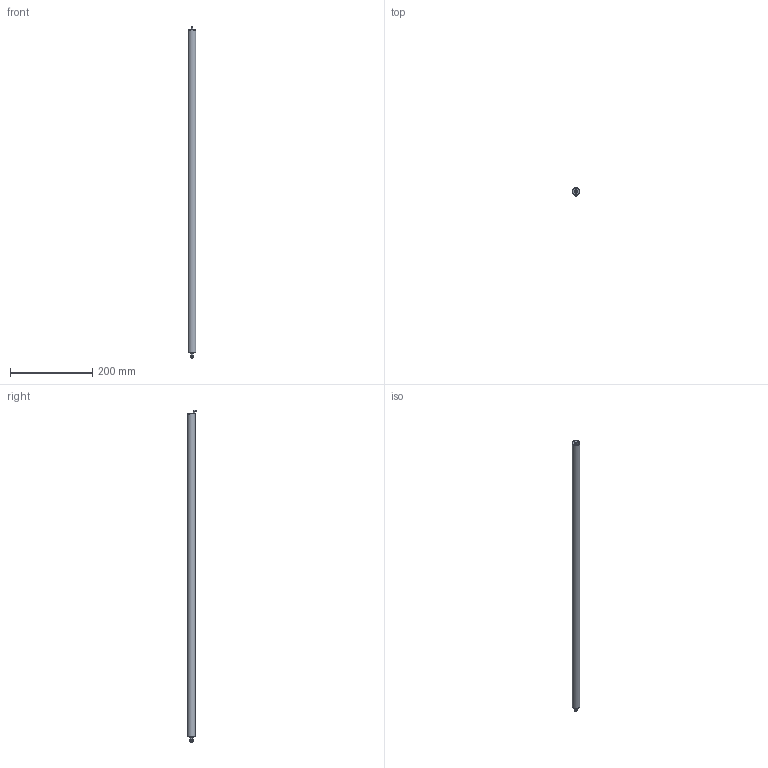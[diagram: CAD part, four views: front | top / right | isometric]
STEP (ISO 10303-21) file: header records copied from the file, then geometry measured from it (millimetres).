
FILE_DESCRIPTION(/* description */ ('ILPS-19Z-XXX-A-00-ZZ shrinkwrapped'),/* implementation_level */ '2;1');
FILE_NAME(/* name */ 'ILPS-19Z-750-A-00-ZZ shrinkwrapped.stp',/* time_stamp */ '2026-08-13T16:15:11-04:00',/* author */ ('Cameron'),/* organization */ ('hgsi'),/* preprocessor_version */ 'ST-DEVELOPER v20.1',/* originating_system */ 'Autodesk Inventor 2027',/* authorisation */ '');
FILE_SCHEMA (('AUTOMOTIVE_DESIGN { 1 0 10303 214 3 1 1 }'));
Length unit declared in the file: inch
Products named in the file (4): ILPS-19Z-250-A-00-ZZ shrinkwrapped; ILPS-19Z-750-A-00-ZZ-A shrinkwrapped body; ILPS-19Z-750 Rod; 8200-0360
Assembly tree (4 placements, depth 2):
  ILPS-19Z-250-A-00-ZZ shrinkwrapped
    ILPS-19Z-750-A-00-ZZ-A shrinkwrapped body
    ILPS-19Z-750 Rod
    8200-0360  x2
Bounding box: 19.05 x 21.89 x 808.8 mm (x, y, z)
Volume: 40310.1 mm3; surface area: 162942.1 mm2
Topology: 6 solids, 6 shells, 95 faces, 226 edges, 149 vertices
Faces by surface type: cylinder 41, plane 33, cone 16, bspline 4, torus 1
Full cylindrical faces by diameter (mm): 3.175 x2, 3.961 x2, 4.75 x1, 4.775 x1, 5 x4, 5.08 x1, 5.944 x2, 5.994 x1, 7.061 x1, 7.137 x2, 18.364 x1, 18.415 x1, 19.05 x1
Entity records: 2811 total; most frequent: CARTESIAN_POINT 1138, DIRECTION 304, ORIENTED_EDGE 302, EDGE_CURVE 151, AXIS2_PLACEMENT_3D 127, VERTEX_POINT 99, EDGE_LOOP 82, FACE_OUTER_BOUND 68
